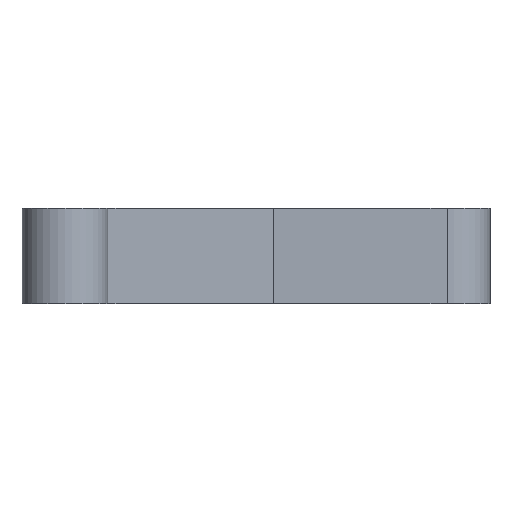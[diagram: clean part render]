
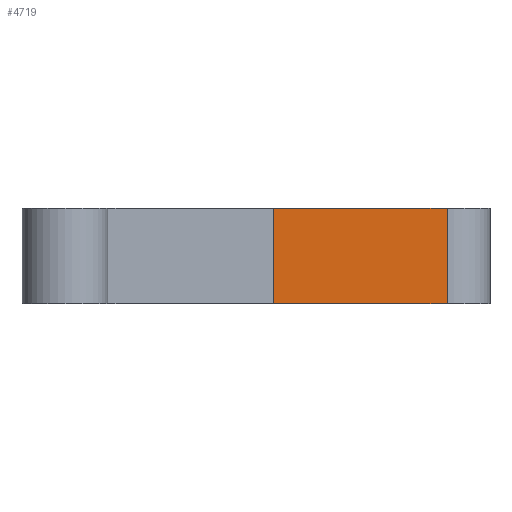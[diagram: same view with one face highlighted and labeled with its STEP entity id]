
A CAD part, left-side view. The second image highlights one B-rep face of the part: STEP entity #4719.
In plain terms, the highlighted planar face has unit normal (-1, 0, 0).
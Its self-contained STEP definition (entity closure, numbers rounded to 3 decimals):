
#85=PLANE('',#5270);
#272=LINE('',#7812,#613);
#320=LINE('',#8031,#661);
#321=LINE('',#8033,#662);
#322=LINE('',#8035,#663);
#613=VECTOR('',#6277,1000.);
#661=VECTOR('',#6513,1000.);
#662=VECTOR('',#6516,1000.);
#663=VECTOR('',#6517,1000.);
#1583=ORIENTED_EDGE('',*,*,#2642,.F.);
#1584=ORIENTED_EDGE('',*,*,#2643,.F.);
#1585=ORIENTED_EDGE('',*,*,#2538,.T.);
#1586=ORIENTED_EDGE('',*,*,#2641,.T.);
#2538=EDGE_CURVE('',#3146,#3145,#272,.T.);
#2641=EDGE_CURVE('',#3145,#3222,#320,.T.);
#2642=EDGE_CURVE('',#3223,#3222,#321,.T.);
#2643=EDGE_CURVE('',#3146,#3223,#322,.T.);
#3145=VERTEX_POINT('',#7811);
#3146=VERTEX_POINT('',#7813);
#3222=VERTEX_POINT('',#8030);
#3223=VERTEX_POINT('',#8034);
#3893=EDGE_LOOP('',(#1583,#1584,#1585,#1586));
#4246=FACE_BOUND('',#3893,.T.);
#4719=ADVANCED_FACE('',(#4246),#85,.T.);
#5270=AXIS2_PLACEMENT_3D('',#8032,#6514,#6515);
#6277=DIRECTION('',(0.,1.,0.));
#6513=DIRECTION('',(0.,0.,-1.));
#6514=DIRECTION('',(-1.,0.,0.));
#6515=DIRECTION('',(0.,-1.,0.));
#6516=DIRECTION('',(0.,1.,0.));
#6517=DIRECTION('',(0.,0.,-1.));
#7811=CARTESIAN_POINT('',(-3.6,14.509,4.));
#7812=CARTESIAN_POINT('',(-3.6,0.,4.));
#7813=CARTESIAN_POINT('',(-3.6,0.,4.));
#8030=CARTESIAN_POINT('',(-3.6,14.509,-4.));
#8031=CARTESIAN_POINT('',(-3.6,14.509,4.));
#8032=CARTESIAN_POINT('',(-3.6,0.,4.));
#8033=CARTESIAN_POINT('',(-3.6,0.,-4.));
#8034=CARTESIAN_POINT('',(-3.6,0.,-4.));
#8035=CARTESIAN_POINT('',(-3.6,0.,4.));
